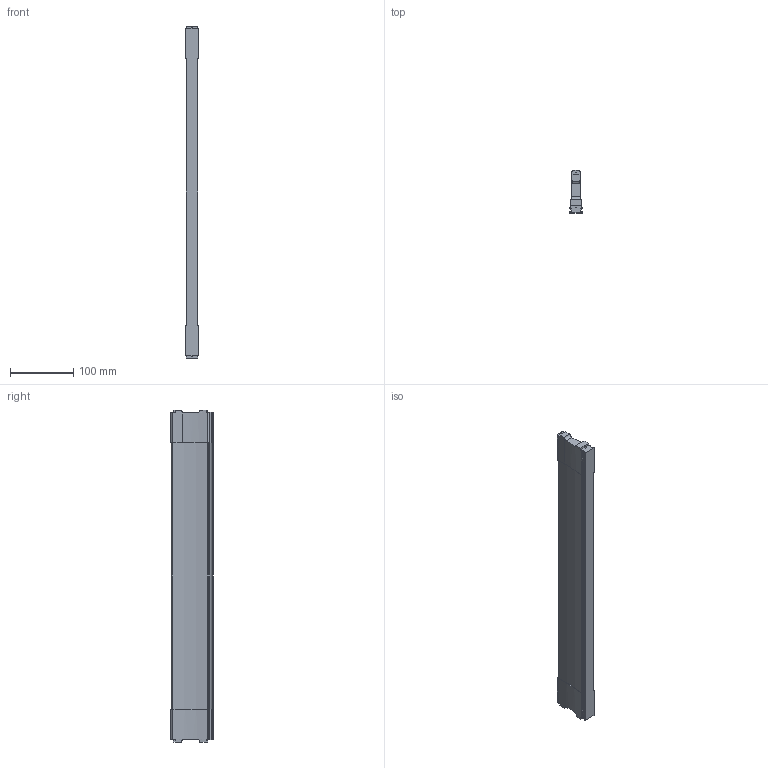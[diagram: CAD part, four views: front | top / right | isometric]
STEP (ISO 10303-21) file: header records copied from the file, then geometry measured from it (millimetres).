
FILE_DESCRIPTION (( 'STEP AP214' ), '1' );
FILE_NAME ('Traverse DWD XP NL550 Mass X518,4_montiert.step', '2010-09-21T13:16:50', ( 'grass' ), ( '' ), 'SwSTEP 2.0', 'SolidWorks 2010', '' );
FILE_SCHEMA (( 'AUTOMOTIVE_DESIGN' ));
Length unit declared in the file: millimetre
Products named in the file (1): Traverse DWD XP NL550 Mass X518,4_montiert
Bounding box: 21.4 x 67.5 x 523 mm (x, y, z)
Volume: 435969.1 mm3; surface area: 91093.3 mm2
Topology: 1 solids, 1 shells, 125 faces, 369 edges, 246 vertices
Faces by surface type: cylinder 68, plane 57
Entity records: 4377 total; most frequent: CARTESIAN_POINT 879, DIRECTION 753, ORIENTED_EDGE 738, EDGE_CURVE 369, AXIS2_PLACEMENT_3D 268, VERTEX_POINT 246, VECTOR 217, LINE 217
